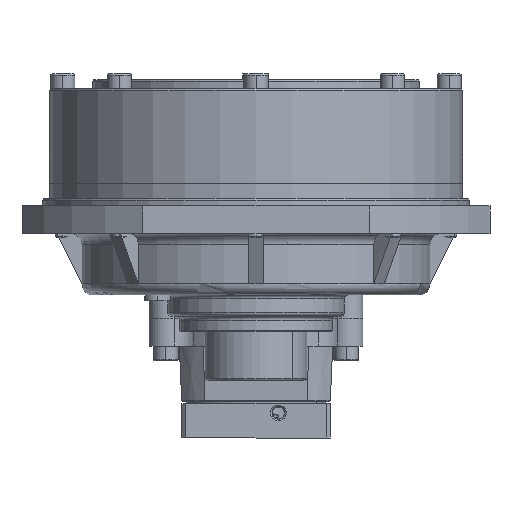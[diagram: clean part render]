
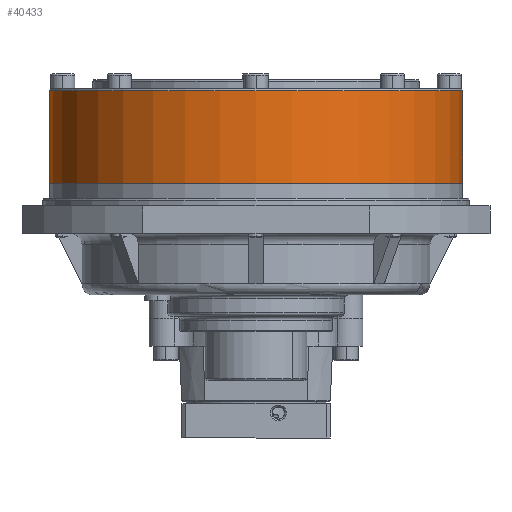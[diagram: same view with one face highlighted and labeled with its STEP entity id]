
A CAD part, front view. The second image highlights one B-rep face of the part: STEP entity #40433.
In plain terms, the highlighted cylindrical face has radius 111.25 mm (diameter 222.5 mm), a partial arc.
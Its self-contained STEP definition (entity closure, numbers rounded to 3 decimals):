
#6387 = DIRECTION ( 'NONE',  ( -1., 0., 0. ) ) ;
#7985 = CARTESIAN_POINT ( 'NONE',  ( 111.25, 0., 72.95 ) ) ;
#10870 = CARTESIAN_POINT ( 'NONE',  ( -111.25, 0., 23.2 ) ) ;
#11822 = CIRCLE ( 'NONE', #133772, 111.25 ) ;
#12146 = CARTESIAN_POINT ( 'NONE',  ( 0., 0., 23.2 ) ) ;
#15746 = DIRECTION ( 'NONE',  ( 0., 0., 1. ) ) ;
#18074 = VERTEX_POINT ( 'NONE', #10870 ) ;
#36530 = CARTESIAN_POINT ( 'NONE',  ( 111.25, 0., 10.95 ) ) ;
#40433 = ADVANCED_FACE ( 'NONE', ( #50304 ), #82006, .T. ) ;
#40866 = LINE ( 'NONE', #140385, #96638 ) ;
#46175 = CARTESIAN_POINT ( 'NONE',  ( -111.25, 0., 72.95 ) ) ;
#49778 = VERTEX_POINT ( 'NONE', #76713 ) ;
#50304 = FACE_OUTER_BOUND ( 'NONE', #70228, .T. ) ;
#50991 = DIRECTION ( 'NONE',  ( -1., 0., 0. ) ) ;
#56085 = DIRECTION ( 'NONE',  ( -1., 0., 0. ) ) ;
#56685 = ORIENTED_EDGE ( 'NONE', *, *, #60855, .T. ) ;
#58124 = VERTEX_POINT ( 'NONE', #46175 ) ;
#60138 = ORIENTED_EDGE ( 'NONE', *, *, #72622, .F. ) ;
#60855 = EDGE_CURVE ( 'NONE', #49778, #91965, #93469, .T. ) ;
#61161 = DIRECTION ( 'NONE',  ( 0., 0., 1. ) ) ;
#64822 = AXIS2_PLACEMENT_3D ( 'NONE', #94274, #15746, #50991 ) ;
#69006 = ORIENTED_EDGE ( 'NONE', *, *, #90662, .F. ) ;
#70228 = EDGE_LOOP ( 'NONE', ( #101529, #56685, #60138, #69006 ) ) ;
#71817 = DIRECTION ( 'NONE',  ( 0., 0., 1. ) ) ;
#72622 = EDGE_CURVE ( 'NONE', #58124, #91965, #82314, .T. ) ;
#74679 = DIRECTION ( 'NONE',  ( 0., 0., 1. ) ) ;
#76713 = CARTESIAN_POINT ( 'NONE',  ( 111.25, 0., 23.2 ) ) ;
#81503 = VECTOR ( 'NONE', #71817, 1000. ) ;
#82006 = CYLINDRICAL_SURFACE ( 'NONE', #64822, 111.25 ) ;
#82314 = CIRCLE ( 'NONE', #139912, 111.25 ) ;
#88523 = DIRECTION ( 'NONE',  ( 0., 0., -1. ) ) ;
#90662 = EDGE_CURVE ( 'NONE', #18074, #58124, #40866, .T. ) ;
#91965 = VERTEX_POINT ( 'NONE', #7985 ) ;
#93469 = LINE ( 'NONE', #36530, #81503 ) ;
#94274 = CARTESIAN_POINT ( 'NONE',  ( 0., 0., 10.95 ) ) ;
#96638 = VECTOR ( 'NONE', #74679, 1000. ) ;
#100167 = EDGE_CURVE ( 'NONE', #49778, #18074, #11822, .T. ) ;
#101529 = ORIENTED_EDGE ( 'NONE', *, *, #100167, .F. ) ;
#133772 = AXIS2_PLACEMENT_3D ( 'NONE', #12146, #88523, #56085 ) ;
#138326 = CARTESIAN_POINT ( 'NONE',  ( 0., 0., 72.95 ) ) ;
#139912 = AXIS2_PLACEMENT_3D ( 'NONE', #138326, #61161, #6387 ) ;
#140385 = CARTESIAN_POINT ( 'NONE',  ( -111.25, 0., 10.95 ) ) ;
